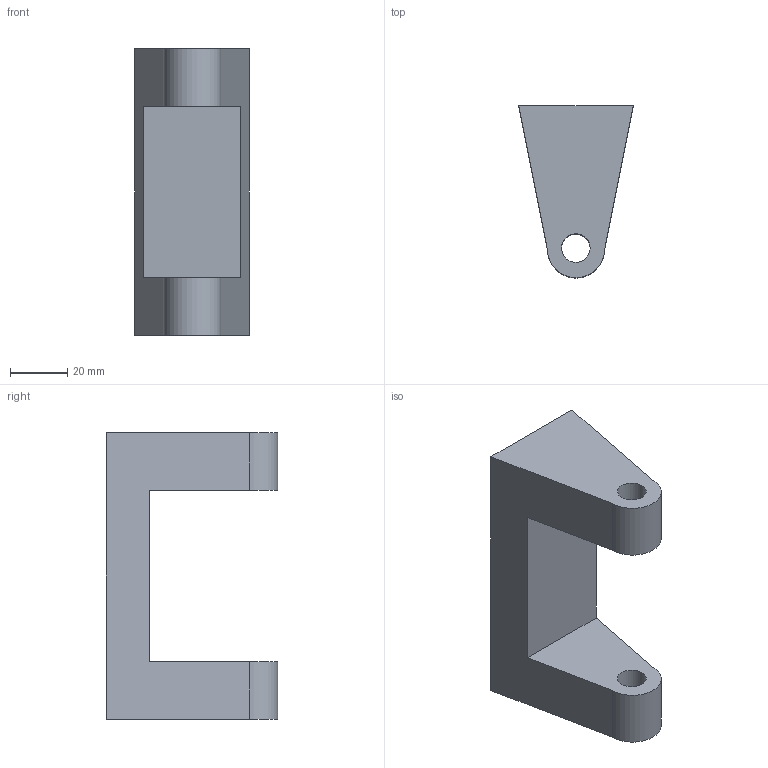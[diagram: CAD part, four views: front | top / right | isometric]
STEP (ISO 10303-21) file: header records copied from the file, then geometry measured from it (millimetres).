
FILE_DESCRIPTION( ( 'STEP Version 203' ), '1' );
FILE_NAME( 'E:/ANSYS_WB_14.0/ANSYS_WB_14.0_Manuscript - Copy/ANSYS_WB/c09/c09_ansWB_tut03.stp', '09/17/19 15:32:35', ( 'SK-CADsoft' ), ( ' ' ), 'PSStep 21.0.47', 'DesignModeler STEP Output', ' ' );
FILE_SCHEMA( ( 'CONFIG_CONTROL_DESIGN' ) );
Length unit declared in the file: metre
Products named in the file (1): 1
Bounding box: 40 x 60 x 100 mm (x, y, z)
Volume: 96441.6 mm3; surface area: 19672.3 mm2
Topology: 1 solids, 1 shells, 12 faces, 36 edges, 26 vertices
Faces by surface type: plane 8, cylinder 4
Full cylindrical faces by diameter (mm): 10 x2
Entity records: 444 total; most frequent: DIRECTION 70, CARTESIAN_POINT 69, ORIENTED_EDGE 64, EDGE_CURVE 32, AXIS2_PLACEMENT_3D 25, VERTEX_POINT 24, LINE 20, VECTOR 20
